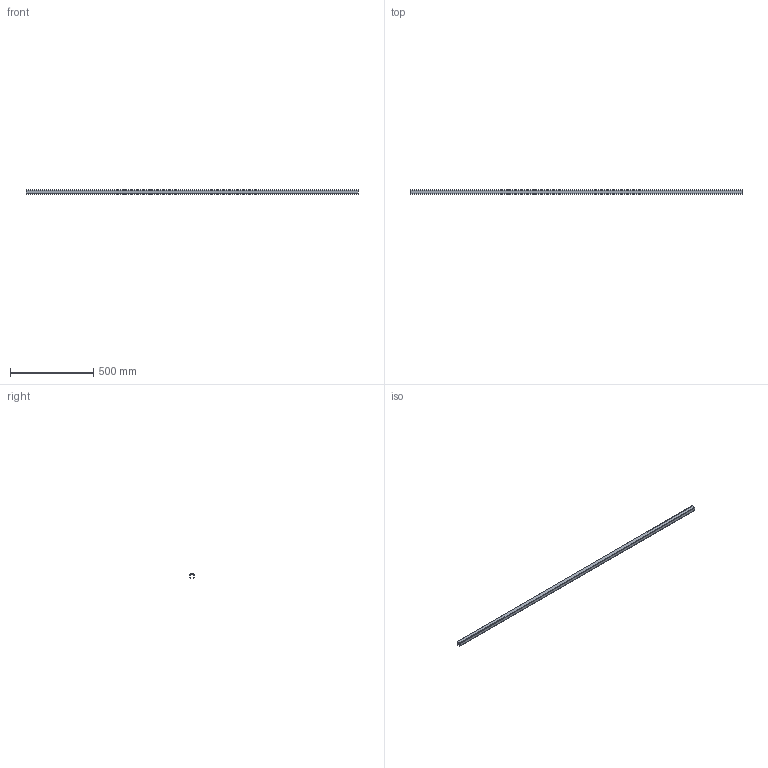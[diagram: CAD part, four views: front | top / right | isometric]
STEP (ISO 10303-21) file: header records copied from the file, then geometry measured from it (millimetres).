
FILE_DESCRIPTION( ( '' ), '1' );
FILE_NAME( 'D:/temp/hettich_stp/hettich/4_folding_sliding/4.6_accessories/runner_guide_profile/1063278.stp', '2013-02-26T10:24:32', ( '' ), ( '' ), ' ', ' ', ' ' );
FILE_SCHEMA( ( 'automotive_design' ) );
Length unit declared in the file: millimetre
Products named in the file (1): 1
Bounding box: 2000 x 26 x 25 mm (x, y, z)
Volume: 163215.9 mm3; surface area: 330595.1 mm2
Topology: 1 solids, 1 shells, 30 faces, 84 edges, 56 vertices
Faces by surface type: plane 18, cylinder 12
Entity records: 1936 total; most frequent: STYLED_ITEM 171, PRESENTATION_STYLE_ASSIGNMENT 171, CARTESIAN_POINT 171, COLOUR_RGB 171, DIRECTION 170, ORIENTED_EDGE 168, EDGE_CURVE 84, CURVE_STYLE 84
